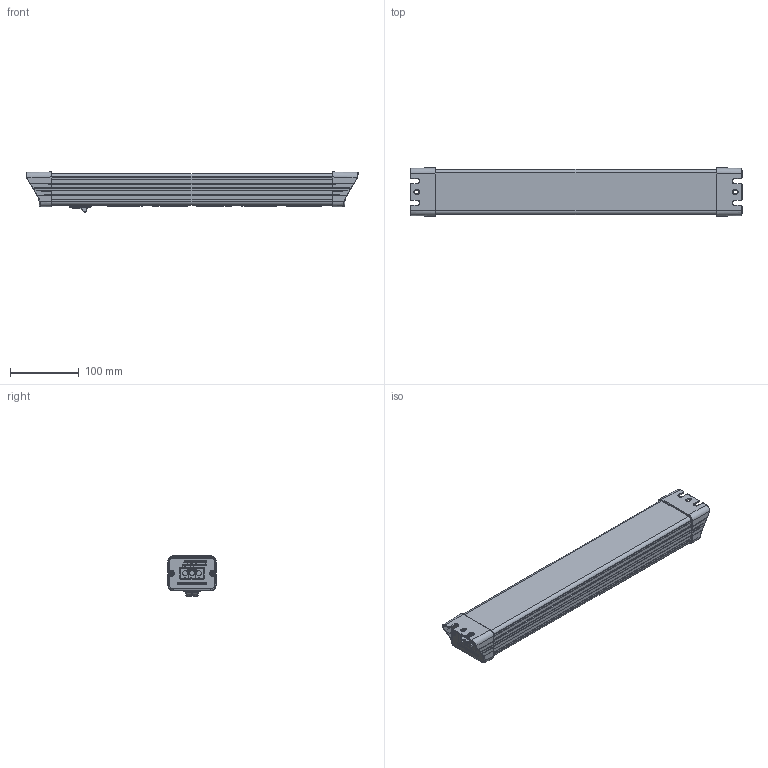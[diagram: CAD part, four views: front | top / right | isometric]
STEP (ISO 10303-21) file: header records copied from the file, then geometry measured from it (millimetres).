
FILE_DESCRIPTION(('Creo Elements/Direct Modeling STEP Export'),'2;1');
FILE_NAME('229520015.stp','2025-10-02T15:32:37',(''),(''),'Creo Elements/Direct Modeling STEP processor for AP214 (Solid Model)','Creo Elements/Direct Modeling 20.5 09-Apr-2022 (C) Parametric Technology GmbH','');
FILE_SCHEMA(('AUTOMOTIVE_DESIGN { 1 0 10303 214 1 1 1 1 }'));
Products named in the file (2): 229520015 Kundenstep
Assembly tree (1 placements, depth 2):
  229520015 Kundenstep
    229520015 Kundenstep
Bounding box: 482.6 x 70.97 x 58.29 mm (x, y, z)
Volume: 1248204.8 mm3; surface area: 181926 mm2
Topology: 1 solids, 31 shells, 7678 faces, 21834 edges, 14266 vertices
Faces by surface type: plane 5739, cylinder 892, bspline 415, cone 292, torus 188, extrusion 96, sphere 56
Entity records: 321638 total; most frequent: CARTESIAN_POINT 127360, ORIENTED_EDGE 43508, DIRECTION 34205, EDGE_CURVE 21744, VECTOR 16255, LINE 16159, VERTEX_POINT 14266, AXIS2_PLACEMENT_3D 8975
